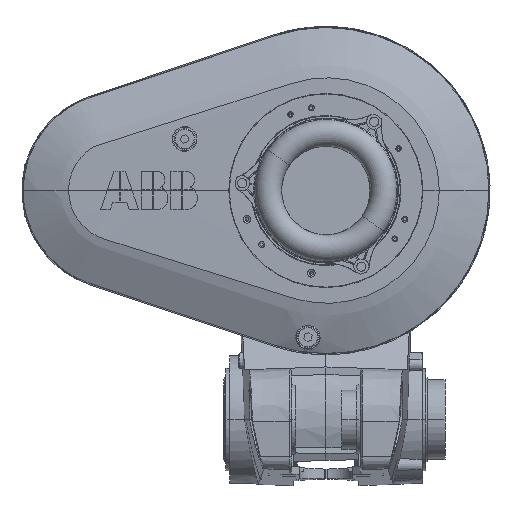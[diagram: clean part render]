
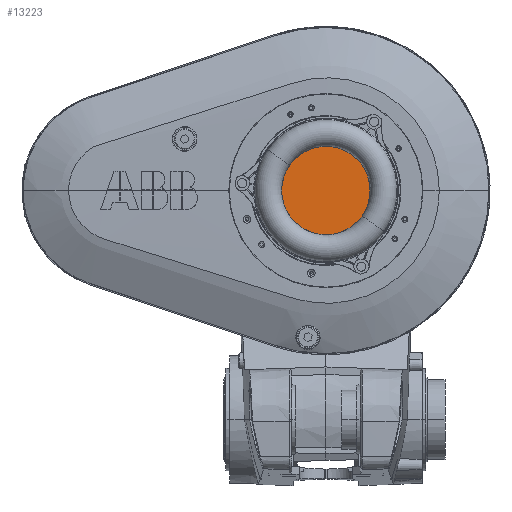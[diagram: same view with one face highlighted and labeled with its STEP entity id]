
A CAD part, left-side view. The second image highlights one B-rep face of the part: STEP entity #13223.
In plain terms, the highlighted planar face has unit normal (-1, 0, 0).
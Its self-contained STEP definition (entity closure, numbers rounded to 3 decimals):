
#1039 = EDGE_LOOP ( 'NONE', ( #9509, #32605 ) ) ;
#2690 = CIRCLE ( 'NONE', #54286, 57.892 ) ;
#6899 = EDGE_CURVE ( 'NONE', #21673, #9293, #2690, .T. ) ;
#9293 = VERTEX_POINT ( 'NONE', #37209 ) ;
#9509 = ORIENTED_EDGE ( 'NONE', *, *, #24495, .T. ) ;
#10138 = DIRECTION ( 'NONE',  ( -1., 0., 0. ) ) ;
#12189 = FACE_OUTER_BOUND ( 'NONE', #1039, .T. ) ;
#12642 = AXIS2_PLACEMENT_3D ( 'NONE', #52582, #39107, #51999 ) ;
#13223 = ADVANCED_FACE ( 'NONE', ( #12189 ), #16063, .T. ) ;
#14102 = CARTESIAN_POINT ( 'NONE',  ( -32.5, 47.423, 2558.206 ) ) ;
#16063 = PLANE ( 'NONE',  #12642 ) ;
#19952 = DIRECTION ( 'NONE',  ( 0., 0., -1. ) ) ;
#21673 = VERTEX_POINT ( 'NONE', #14102 ) ;
#24495 = EDGE_CURVE ( 'NONE', #9293, #21673, #26098, .T. ) ;
#26098 = CIRCLE ( 'NONE', #41413, 57.892 ) ;
#32605 = ORIENTED_EDGE ( 'NONE', *, *, #6899, .T. ) ;
#36804 = DIRECTION ( 'NONE',  ( 0., 0., -1. ) ) ;
#37209 = CARTESIAN_POINT ( 'NONE',  ( -32.5, -47.423, 2491.794 ) ) ;
#39107 = DIRECTION ( 'NONE',  ( -1., 0., 0. ) ) ;
#41413 = AXIS2_PLACEMENT_3D ( 'NONE', #55031, #10138, #36804 ) ;
#47205 = DIRECTION ( 'NONE',  ( -1., 0., 0. ) ) ;
#50473 = CARTESIAN_POINT ( 'NONE',  ( -32.5, 0., 2525. ) ) ;
#51999 = DIRECTION ( 'NONE',  ( 0., 0., -1. ) ) ;
#52582 = CARTESIAN_POINT ( 'NONE',  ( -32.5, 0., 2525. ) ) ;
#54286 = AXIS2_PLACEMENT_3D ( 'NONE', #50473, #47205, #19952 ) ;
#55031 = CARTESIAN_POINT ( 'NONE',  ( -32.5, 0., 2525. ) ) ;
